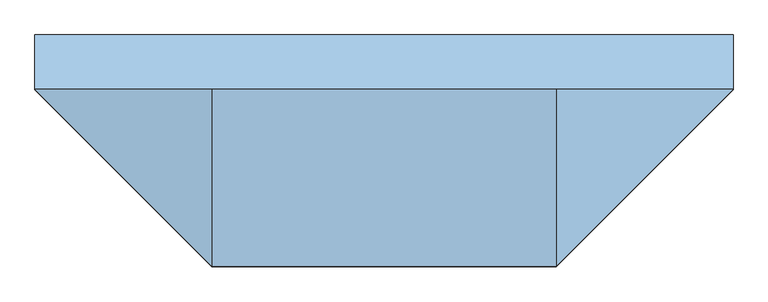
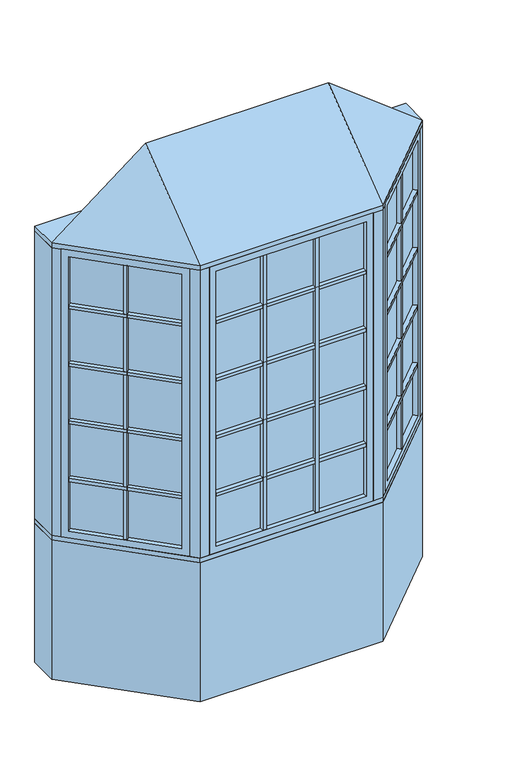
"""IFC4 building model written with IfcOpenShell, lengths in millimetres: window geometry, Pollard_Windows_Tudor Casement Bows and Bays : AML-BAY 45 AFR0616-08-600_GC."""

from ifc_helpers import new_model, si_unit, frame, origin, origin_with_axes, place, context, project, spatial, polyline, outline, extrude, faceted_brep, source, transform, mapped, element, save


def window_9915bfea(model_context):
    return source(origin(), model_context, "Body", "SolidModel", [
        extrude(outline(polyline([(539.5114193, -506.9608753), (523.9550701, -491.4045261), (901.616171, -113.7434252), (917.1725202, -129.2997743), (539.5114193, -506.9608753)])), frame((0.0, 0.0, 1110.998), z_axis=(0.0, 0.0, 1.0), x_axis=(1.0, 0.0, 0.0)), (0.0, 0.0, 1.0), 18.0),
        extrude(outline(polyline([(520.3629677, -487.8124236), (504.8066185, -472.2560744), (882.4677194, -94.5949735), (898.0240686, -110.1513227), (520.3629677, -487.8124236)])), frame((0.0, 0.0, 1110.998), z_axis=(0.0, 0.0, 1.0), x_axis=(1.0, 0.0, 0.0)), (0.0, 0.0, 1.0), 18.0),
        extrude(outline(polyline([(539.5114193, -506.9608753), (523.9550701, -491.4045261), (901.616171, -113.7434252), (917.1725202, -129.2997743), (539.5114193, -506.9608753)])), frame((0.0, 0.0, 1430.998), z_axis=(0.0, 0.0, 1.0), x_axis=(1.0, 0.0, 0.0)), (0.0, 0.0, 1.0), 18.0),
        extrude(outline(polyline([(520.3629677, -487.8124236), (504.8066185, -472.2560744), (882.4677194, -94.5949735), (898.0240686, -110.1513227), (520.3629677, -487.8124236)])), frame((0.0, 0.0, 1430.998), z_axis=(0.0, 0.0, 1.0), x_axis=(1.0, 0.0, 0.0)), (0.0, 0.0, 1.0), 18.0),
        extrude(outline(polyline([(539.5114193, -506.9608753), (523.9550701, -491.4045261), (901.616171, -113.7434252), (917.1725202, -129.2997743), (539.5114193, -506.9608753)])), frame((0.0, 0.0, 1750.998), z_axis=(0.0, 0.0, 1.0), x_axis=(1.0, 0.0, 0.0)), (0.0, 0.0, 1.0), 18.0),
        extrude(outline(polyline([(520.3629677, -487.8124236), (504.8066185, -472.2560744), (882.4677194, -94.5949735), (898.0240686, -110.1513227), (520.3629677, -487.8124236)])), frame((0.0, 0.0, 1750.998), z_axis=(0.0, 0.0, 1.0), x_axis=(1.0, 0.0, 0.0)), (0.0, 0.0, 1.0), 18.0),
        extrude(outline(polyline([(539.5114193, -506.9608753), (523.9550701, -491.4045261), (901.616171, -113.7434252), (917.1725202, -129.2997743), (539.5114193, -506.9608753)])), frame((0.0, 0.0, 2070.998), z_axis=(0.0, 0.0, 1.0), x_axis=(1.0, 0.0, 0.0)), (0.0, 0.0, 1.0), 18.0),
        extrude(outline(polyline([(520.3629677, -487.8124236), (504.8066185, -472.2560744), (882.4677194, -94.5949735), (898.0240686, -110.1513227), (520.3629677, -487.8124236)])), frame((0.0, 0.0, 2070.998), z_axis=(0.0, 0.0, 1.0), x_axis=(1.0, 0.0, 0.0)), (0.0, 0.0, 1.0), 18.0),
        extrude(outline(polyline([(719.1495816, -296.2100146), (734.7059308, -311.7663638), (721.9780087, -324.4942858), (706.4216595, -308.9379366), (719.1495816, -296.2100146)])), frame((0.0, 0.0, 835.8628), z_axis=(0.0, 0.0, 1.0), x_axis=(1.0, 0.0, 0.0)), (0.0, 0.0, 1.0), 1528.2704),
        extrude(outline(polyline([(715.5574791, -292.6179121), (702.8295571, -305.3458342), (687.2732079, -289.789485), (700.00113, -277.0615629), (715.5574791, -292.6179121)])), frame((0.0, 0.0, 835.8628), z_axis=(0.0, 0.0, 1.0), x_axis=(1.0, 0.0, 0.0)), (0.0, 0.0, 1.0), 1528.2704),
        extrude(outline(polyline([(910.5964271, -104.763169), (514.974814, -500.3847822), (511.3827115, -496.7926797), (907.0043247, -101.1710666), (910.5964271, -104.763169)])), frame((0.0, 0.0, 823.1628), z_axis=(0.0, 0.0, 1.0), x_axis=(1.0, 0.0, 0.0)), (0.0, 0.0, 1.0), 1553.6704),
        faceted_brep([(901.616171, -113.7434252, 835.8628), (919.5766833, -131.7039374, 835.8628), (919.5766833, -131.7039374, 2364.1332), (901.616171, -113.7434252, 2364.1332), (907.0043247, -101.1710666, 823.1628), (910.5964271, -104.763169, 823.1628), (910.5964271, -104.763169, 2376.8332), (907.0043247, -101.1710666, 2376.8332), (880.0635563, -92.1908105, 835.8628), (898.0240686, -110.1513227, 835.8628), (898.0240686, -110.1513227, 2364.1332), (880.0635563, -92.1908105, 2364.1332), (944.9369265, -106.3436941, 799.998), (905.4237996, -66.8305672, 799.998), (905.4237996, -66.8305672, 2399.998), (944.9369265, -106.3436941, 2399.998), (541.9155823, -509.3650383, 2364.1332), (523.9550701, -491.4045261, 2364.1332), (514.974814, -500.3847822, 2376.8332), (511.3827115, -496.7926797, 2376.8332), (520.3629677, -487.8124236, 2364.1332), (502.4024554, -469.8519114, 2364.1332), (477.0422121, -495.2121547, 2399.998), (516.5553391, -534.7252816, 2399.998), (541.9155823, -509.3650383, 835.8628), (523.9550701, -491.4045261, 835.8628), (514.974814, -500.3847822, 823.1628), (511.3827115, -496.7926797, 823.1628), (520.3629677, -487.8124236, 835.8628), (502.4024554, -469.8519114, 835.8628), (477.0422121, -495.2121547, 799.998), (516.5553391, -534.7252816, 799.998)], [[[0, 1, 2, 3]], [[4, 5, 6, 7]], [[8, 9, 10, 11]], [[12, 13, 14, 15]], [[3, 2, 16, 17]], [[7, 6, 18, 19]], [[11, 10, 20, 21]], [[15, 14, 22, 23]], [[17, 16, 24, 25]], [[19, 18, 26, 27]], [[21, 20, 28, 29]], [[23, 22, 30, 31]], [[25, 24, 1, 0]], [[5, 26, 18, 6], [3, 17, 25, 0]], [[27, 26, 5, 4]], [[7, 19, 27, 4], [9, 28, 20, 10]], [[29, 28, 9, 8]], [[13, 30, 22, 14], [11, 21, 29, 8]], [[31, 30, 13, 12]], [[15, 23, 31, 12], [1, 24, 16, 2]]]),
        extrude(outline(polyline([(148.0118667, -544.6806207), (148.0118667, -566.6806207), (130.0118667, -566.6806207), (130.0118667, -544.6806207), (148.0118667, -544.6806207)])), frame((0.0, 0.0, 835.8628), z_axis=(0.0, 0.0, 1.0), x_axis=(1.0, 0.0, 0.0)), (0.0, 0.0, 1.0), 1528.2704),
        extrude(outline(polyline([(148.0118667, -539.6006207), (130.0118667, -539.6006207), (130.0118667, -517.6006207), (148.0118667, -517.6006207), (148.0118667, -539.6006207)])), frame((0.0, 0.0, 835.8628), z_axis=(0.0, 0.0, 1.0), x_axis=(1.0, 0.0, 0.0)), (0.0, 0.0, 1.0), 1528.2704),
        extrude(outline(polyline([(-130.0118667, -544.6806207), (-130.0118667, -566.6806207), (-148.0118667, -566.6806207), (-148.0118667, -544.6806207), (-130.0118667, -544.6806207)])), frame((0.0, 0.0, 835.8628), z_axis=(0.0, 0.0, 1.0), x_axis=(1.0, 0.0, 0.0)), (0.0, 0.0, 1.0), 1528.2704),
        extrude(outline(polyline([(-130.0118667, -539.6006207), (-148.0118667, -539.6006207), (-148.0118667, -517.6006207), (-130.0118667, -517.6006207), (-130.0118667, -539.6006207)])), frame((0.0, 0.0, 835.8628), z_axis=(0.0, 0.0, 1.0), x_axis=(1.0, 0.0, 0.0)), (0.0, 0.0, 1.0), 1528.2704),
        extrude(outline(polyline([(-395.3352, -566.6806207), (-395.3352, -544.6806207), (395.3352, -544.6806207), (395.3352, -566.6806207), (-395.3352, -566.6806207)])), frame((0.0, 0.0, 1110.998), z_axis=(0.0, 0.0, 1.0), x_axis=(1.0, 0.0, 0.0)), (0.0, 0.0, 1.0), 18.0),
        extrude(outline(polyline([(-395.3352, -539.6006207), (-395.3352, -517.6006207), (395.3352, -517.6006207), (395.3352, -539.6006207), (-395.3352, -539.6006207)])), frame((0.0, 0.0, 1110.998), z_axis=(0.0, 0.0, 1.0), x_axis=(1.0, 0.0, 0.0)), (0.0, 0.0, 1.0), 18.0),
        extrude(outline(polyline([(-395.3352, -566.6806207), (-395.3352, -544.6806207), (395.3352, -544.6806207), (395.3352, -566.6806207), (-395.3352, -566.6806207)])), frame((0.0, 0.0, 1430.998), z_axis=(0.0, 0.0, 1.0), x_axis=(1.0, 0.0, 0.0)), (0.0, 0.0, 1.0), 18.0),
        extrude(outline(polyline([(-395.3352, -539.6006207), (-395.3352, -517.6006207), (395.3352, -517.6006207), (395.3352, -539.6006207), (-395.3352, -539.6006207)])), frame((0.0, 0.0, 1430.998), z_axis=(0.0, 0.0, 1.0), x_axis=(1.0, 0.0, 0.0)), (0.0, 0.0, 1.0), 18.0),
        extrude(outline(polyline([(-395.3352, -566.6806207), (-395.3352, -544.6806207), (395.3352, -544.6806207), (395.3352, -566.6806207), (-395.3352, -566.6806207)])), frame((0.0, 0.0, 1750.998), z_axis=(0.0, 0.0, 1.0), x_axis=(1.0, 0.0, 0.0)), (0.0, 0.0, 1.0), 18.0),
        extrude(outline(polyline([(-395.3352, -539.6006207), (-395.3352, -517.6006207), (395.3352, -517.6006207), (395.3352, -539.6006207), (-395.3352, -539.6006207)])), frame((0.0, 0.0, 1750.998), z_axis=(0.0, 0.0, 1.0), x_axis=(1.0, 0.0, 0.0)), (0.0, 0.0, 1.0), 18.0),
        extrude(outline(polyline([(-917.1725202, -129.2997743), (-901.616171, -113.7434252), (-523.9550701, -491.4045261), (-539.5114193, -506.9608753), (-917.1725202, -129.2997743)])), frame((0.0, 0.0, 1110.998), z_axis=(0.0, 0.0, 1.0), x_axis=(1.0, 0.0, 0.0)), (0.0, 0.0, 1.0), 18.0),
        extrude(outline(polyline([(-898.0240686, -110.1513227), (-882.4677194, -94.5949735), (-504.8066185, -472.2560744), (-520.3629677, -487.8124236), (-898.0240686, -110.1513227)])), frame((0.0, 0.0, 1110.998), z_axis=(0.0, 0.0, 1.0), x_axis=(1.0, 0.0, 0.0)), (0.0, 0.0, 1.0), 18.0),
        extrude(outline(polyline([(-917.1725202, -129.2997743), (-901.616171, -113.7434252), (-523.9550701, -491.4045261), (-539.5114193, -506.9608753), (-917.1725202, -129.2997743)])), frame((0.0, 0.0, 1430.998), z_axis=(0.0, 0.0, 1.0), x_axis=(1.0, 0.0, 0.0)), (0.0, 0.0, 1.0), 18.0),
        extrude(outline(polyline([(-898.0240686, -110.1513227), (-882.4677194, -94.5949735), (-504.8066185, -472.2560744), (-520.3629677, -487.8124236), (-898.0240686, -110.1513227)])), frame((0.0, 0.0, 1430.998), z_axis=(0.0, 0.0, 1.0), x_axis=(1.0, 0.0, 0.0)), (0.0, 0.0, 1.0), 18.0),
        extrude(outline(polyline([(-917.1725202, -129.2997743), (-901.616171, -113.7434252), (-523.9550701, -491.4045261), (-539.5114193, -506.9608753), (-917.1725202, -129.2997743)])), frame((0.0, 0.0, 1750.998), z_axis=(0.0, 0.0, 1.0), x_axis=(1.0, 0.0, 0.0)), (0.0, 0.0, 1.0), 18.0),
        extrude(outline(polyline([(-898.0240686, -110.1513227), (-882.4677194, -94.5949735), (-504.8066185, -472.2560744), (-520.3629677, -487.8124236), (-898.0240686, -110.1513227)])), frame((0.0, 0.0, 1750.998), z_axis=(0.0, 0.0, 1.0), x_axis=(1.0, 0.0, 0.0)), (0.0, 0.0, 1.0), 18.0),
        extrude(outline(polyline([(-917.1725202, -129.2997743), (-901.616171, -113.7434252), (-523.9550701, -491.4045261), (-539.5114193, -506.9608753), (-917.1725202, -129.2997743)])), frame((0.0, 0.0, 2070.998), z_axis=(0.0, 0.0, 1.0), x_axis=(1.0, 0.0, 0.0)), (0.0, 0.0, 1.0), 18.0),
        extrude(outline(polyline([(-898.0240686, -110.1513227), (-882.4677194, -94.5949735), (-504.8066185, -472.2560744), (-520.3629677, -487.8124236), (-898.0240686, -110.1513227)])), frame((0.0, 0.0, 2070.998), z_axis=(0.0, 0.0, 1.0), x_axis=(1.0, 0.0, 0.0)), (0.0, 0.0, 1.0), 18.0),
        extrude(outline(polyline([(-395.3352, -566.6806207), (-395.3352, -544.6806207), (395.3352, -544.6806207), (395.3352, -566.6806207), (-395.3352, -566.6806207)])), frame((0.0, 0.0, 2070.998), z_axis=(0.0, 0.0, 1.0), x_axis=(1.0, 0.0, 0.0)), (0.0, 0.0, 1.0), 18.0),
        extrude(outline(polyline([(-395.3352, -539.6006207), (-395.3352, -517.6006207), (395.3352, -517.6006207), (395.3352, -539.6006207), (-395.3352, -539.6006207)])), frame((0.0, 0.0, 2070.998), z_axis=(0.0, 0.0, 1.0), x_axis=(1.0, 0.0, 0.0)), (0.0, 0.0, 1.0), 18.0),
        extrude(outline(polyline([(-706.4216595, -308.9379366), (-721.9780087, -324.4942858), (-734.7059308, -311.7663638), (-719.1495816, -296.2100146), (-706.4216595, -308.9379366)])), frame((0.0, 0.0, 835.8628), z_axis=(0.0, 0.0, 1.0), x_axis=(1.0, 0.0, 0.0)), (0.0, 0.0, 1.0), 1528.2704),
        extrude(outline(polyline([(-702.8295571, -305.3458342), (-715.5574791, -292.6179121), (-700.00113, -277.0615629), (-687.2732079, -289.789485), (-702.8295571, -305.3458342)])), frame((0.0, 0.0, 835.8628), z_axis=(0.0, 0.0, 1.0), x_axis=(1.0, 0.0, 0.0)), (0.0, 0.0, 1.0), 1528.2704),
        extrude(outline(polyline([(-514.974814, -500.3847822), (-910.5964271, -104.763169), (-907.0043247, -101.1710666), (-511.3827115, -496.7926797), (-514.974814, -500.3847822)])), frame((0.0, 0.0, 823.1628), z_axis=(0.0, 0.0, 1.0), x_axis=(1.0, 0.0, 0.0)), (0.0, 0.0, 1.0), 1553.6704),
        faceted_brep([(-520.3629677, -487.8124236, 2364.1332), (-502.4024554, -469.8519114, 2364.1332), (-502.4024554, -469.8519114, 835.8628), (-520.3629677, -487.8124236, 835.8628), (-514.974814, -500.3847822, 2376.8332), (-511.3827115, -496.7926797, 2376.8332), (-511.3827115, -496.7926797, 823.1628), (-514.974814, -500.3847822, 823.1628), (-541.9155823, -509.3650383, 2364.1332), (-523.9550701, -491.4045261, 2364.1332), (-523.9550701, -491.4045261, 835.8628), (-541.9155823, -509.3650383, 835.8628), (-477.0422121, -495.2121547, 2399.998), (-516.5553391, -534.7252816, 2399.998), (-516.5553391, -534.7252816, 799.998), (-477.0422121, -495.2121547, 799.998), (-880.0635563, -92.1908105, 835.8628), (-898.0240686, -110.1513227, 835.8628), (-907.0043247, -101.1710666, 823.1628), (-910.5964271, -104.763169, 823.1628), (-901.616171, -113.7434252, 835.8628), (-919.5766833, -131.7039374, 835.8628), (-944.9369265, -106.3436941, 799.998), (-905.4237996, -66.8305672, 799.998), (-880.0635563, -92.1908105, 2364.1332), (-898.0240686, -110.1513227, 2364.1332), (-907.0043247, -101.1710666, 2376.8332), (-910.5964271, -104.763169, 2376.8332), (-901.616171, -113.7434252, 2364.1332), (-919.5766833, -131.7039374, 2364.1332), (-944.9369265, -106.3436941, 2399.998), (-905.4237996, -66.8305672, 2399.998)], [[[0, 1, 2, 3]], [[4, 5, 6, 7]], [[8, 9, 10, 11]], [[12, 13, 14, 15]], [[3, 2, 16, 17]], [[7, 6, 18, 19]], [[11, 10, 20, 21]], [[15, 14, 22, 23]], [[17, 16, 24, 25]], [[19, 18, 26, 27]], [[21, 20, 28, 29]], [[23, 22, 30, 31]], [[15, 23, 31, 12], [1, 24, 16, 2]], [[25, 24, 1, 0]], [[5, 26, 18, 6], [3, 17, 25, 0]], [[27, 26, 5, 4]], [[7, 19, 27, 4], [9, 28, 20, 10]], [[29, 28, 9, 8]], [[13, 30, 22, 14], [11, 21, 29, 8]], [[31, 30, 13, 12]]]),
        extrude(outline(polyline([(408.0352, -544.6806207), (-408.0352, -544.6806207), (-408.0352, -539.6006207), (408.0352, -539.6006207), (408.0352, -544.6806207)])), frame((0.0, 0.0, 823.1628), z_axis=(0.0, 0.0, 1.0), x_axis=(1.0, 0.0, 0.0)), (0.0, 0.0, 1.0), 1553.6704),
        faceted_brep([(395.3352, -544.6806207, 835.8628), (395.3352, -570.0806207, 835.8628), (395.3352, -570.0806207, 2364.1332), (395.3352, -544.6806207, 2364.1332), (408.0352, -539.6006207, 823.1628), (408.0352, -544.6806207, 823.1628), (408.0352, -544.6806207, 2376.8332), (408.0352, -539.6006207, 2376.8332), (395.3352, -514.2006207, 835.8628), (395.3352, -539.6006207, 835.8628), (395.3352, -539.6006207, 2364.1332), (395.3352, -514.2006207, 2364.1332), (431.2, -570.0806207, 799.998), (431.2, -514.2006207, 799.998), (431.2, -514.2006207, 2399.998), (431.2, -570.0806207, 2399.998), (-395.3352, -570.0806207, 2364.1332), (-395.3352, -544.6806207, 2364.1332), (-408.0352, -544.6806207, 2376.8332), (-408.0352, -539.6006207, 2376.8332), (-395.3352, -539.6006207, 2364.1332), (-395.3352, -514.2006207, 2364.1332), (-431.2, -514.2006207, 2399.998), (-431.2, -570.0806207, 2399.998), (-395.3352, -570.0806207, 835.8628), (-395.3352, -544.6806207, 835.8628), (-408.0352, -544.6806207, 823.1628), (-408.0352, -539.6006207, 823.1628), (-395.3352, -539.6006207, 835.8628), (-395.3352, -514.2006207, 835.8628), (-431.2, -514.2006207, 799.998), (-431.2, -570.0806207, 799.998)], [[[0, 1, 2, 3]], [[4, 5, 6, 7]], [[8, 9, 10, 11]], [[12, 13, 14, 15]], [[3, 2, 16, 17]], [[7, 6, 18, 19]], [[11, 10, 20, 21]], [[15, 14, 22, 23]], [[17, 16, 24, 25]], [[19, 18, 26, 27]], [[21, 20, 28, 29]], [[23, 22, 30, 31]], [[15, 23, 31, 12], [1, 24, 16, 2]], [[25, 24, 1, 0]], [[5, 26, 18, 6], [3, 17, 25, 0]], [[27, 26, 5, 4]], [[7, 19, 27, 4], [9, 28, 20, 10]], [[29, 28, 9, 8]], [[13, 30, 22, 14], [11, 21, 29, 8]], [[31, 30, 13, 12]]]),
        faceted_brep([(976.5, -74.7806207, 2425.398), (481.2, -570.0806207, 2425.398), (-481.2, -570.0806207, 2425.398), (-976.5, -74.7806207, 2425.398), (-481.2, -74.7806207, 2806.398), (481.2, -74.7806207, 2806.398)], [[[0, 1, 2, 3]], [[3, 2, 4]], [[2, 1, 5, 4]], [[1, 0, 5]], [[0, 3, 4, 5]]]),
        extrude(outline(polyline([(-976.5, 77.6193793), (976.5, 77.6193793), (976.5, -74.7806207), (481.2, -570.0806207), (-481.2, -570.0806207), (-976.5, -74.7806207), (-976.5, 77.6193793)])), frame((0.0, 0.0, 2399.998), z_axis=(0.0, 0.0, 1.0), x_axis=(1.0, 0.0, 0.0)), (0.0, 0.0, 1.0), 25.4),
        extrude(outline(polyline([(-976.5, -74.7806207), (-976.5, 77.6193793), (-913.3738531, 77.6193793), (-913.3738531, -74.7806207), (-944.9369265, -106.3436941), (-976.5, -74.7806207)])), frame((0.0, 0.0, 799.998), z_axis=(0.0, 0.0, 1.0), x_axis=(1.0, 0.0, 0.0)), (0.0, 0.0, 1.0), 1600.0),
        extrude(outline(polyline([(976.5, 77.6193793), (976.5, -74.7806207), (944.9369265, -106.3436941), (913.3738531, -74.7806207), (913.3738531, 77.6193793), (976.5, 77.6193793)])), frame((0.0, 0.0, 799.998), z_axis=(0.0, 0.0, 1.0), x_axis=(1.0, 0.0, 0.0)), (0.0, 0.0, 1.0), 1600.0),
        extrude(outline(polyline([(481.2, -570.0806207), (431.2, -570.0806207), (431.2, -520.0806207), (460.4893219, -520.0806207), (481.2, -499.3699425), (516.5553391, -534.7252816), (481.2, -570.0806207)])), frame((0.0, 0.0, 799.998), z_axis=(0.0, 0.0, 1.0), x_axis=(1.0, 0.0, 0.0)), (0.0, 0.0, 1.0), 1600.0),
        extrude(outline(polyline([(-481.2, -570.0806207), (-516.5553391, -534.7252816), (-481.2, -499.3699425), (-460.4893219, -520.0806207), (-431.2, -520.0806207), (-431.2, -570.0806207), (-481.2, -570.0806207)])), frame((0.0, 0.0, 799.998), z_axis=(0.0, 0.0, 1.0), x_axis=(1.0, 0.0, 0.0)), (0.0, 0.0, 1.0), 1600.0),
        extrude(outline(polyline([(-481.2, -570.0806207), (-976.5, -74.7806207), (-976.5, 77.6193793), (-913.3738531, 77.6193793), (-418.0738531, -417.6806207), (418.0738531, -417.6806207), (913.3738531, 77.6193793), (976.5, 77.6193793), (976.5, -74.7806207), (481.2, -570.0806207), (-481.2, -570.0806207)])), frame((0.0, 0.0, 774.598), z_axis=(0.0, 0.0, 1.0), x_axis=(1.0, 0.0, 0.0)), (0.0, 0.0, 1.0), 25.4),
        extrude(outline(polyline([(-976.5, -74.7806207), (-976.5, 77.6193793), (-913.3738531, 77.6193793), (-418.0738531, -417.6806207), (418.0738531, -417.6806207), (913.3738531, 77.6193793), (976.5, 77.6193793), (976.5, -74.7806207), (481.2, -570.0806207), (-481.2, -570.0806207), (-976.5, -74.7806207)])), origin_with_axes(), (0.0, 0.0, 1.0), 774.598),
    ])


if __name__ == "__main__":
    model = new_model("IFC4")
    model_context = context("Model", 3, world=origin())
    ifc_project = project(units=[si_unit("LENGTHUNIT", "METRE", prefix="MILLI")], contexts=[model_context])
    site = spatial("IfcSite", under=ifc_project)
    building = spatial("IfcBuilding", under=site)
    placement = place(None, origin())
    window_shape = window_9915bfea(model_context)
    element("IfcWindow", 1, ObjectType="Pollard_Windows_Tudor Casement Bows and Bays : AML-BAY 45 AFR0616-08-600_GC", at=placement, inside=building, context=model_context, shape_type="MappedRepresentation", body=[
        mapped(window_shape, transform((0.0, 0.0, 0.0), x_axis=(1.0, 0.0, 0.0), y_axis=(0.0, 1.0, 0.0), z_axis=(0.0, 0.0, 1.0))),
    ])
    save(model, "model.ifc")
